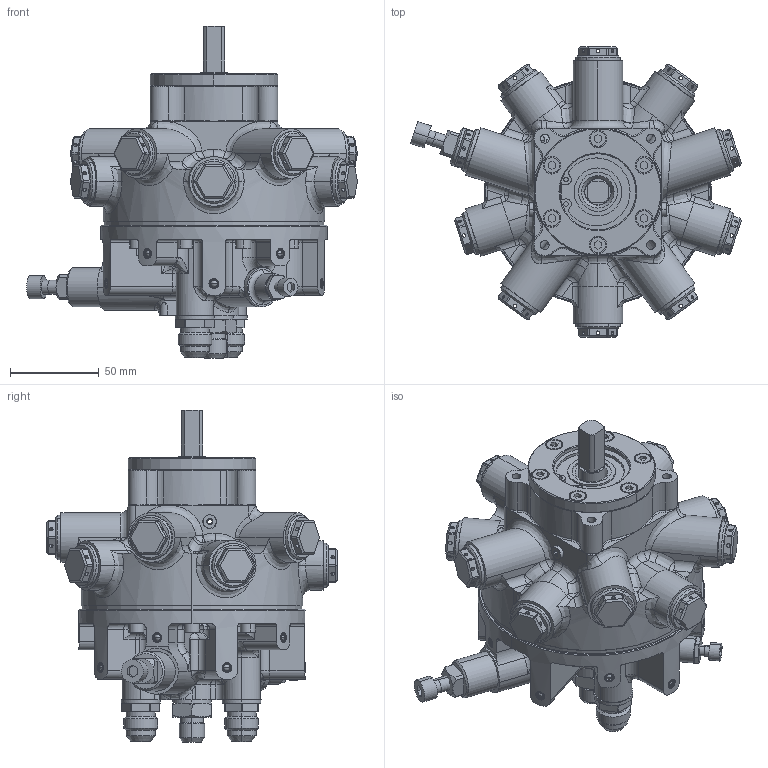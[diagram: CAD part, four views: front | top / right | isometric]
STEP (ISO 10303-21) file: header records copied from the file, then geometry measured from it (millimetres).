
FILE_DESCRIPTION (( 'STEP AP203' ), '1' );
FILE_NAME ('IPR10.STEP', '2018-05-30T10:15:25', ( 'utente' ), ( '' ), 'SwSTEP 2.0', 'SolidWorks 2015', '' );
FILE_SCHEMA (( 'CONFIG_CONTROL_DESIGN' ));
Length unit declared in the file: millimetre
Products named in the file (1): IPR10
Bounding box: 186.79 x 164 x 187.5 mm (x, y, z)
Surface area: 124637.3 mm2 (no closed solid volume)
Topology: 0 solids, 56 shells, 1648 faces, 4334 edges, 2581 vertices
Faces by surface type: cylinder 648, plane 470, bspline 180, cone 171, torus 109, sphere 70
Entity records: 59441 total; most frequent: CARTESIAN_POINT 20694, DIRECTION 8184, ORIENTED_EDGE 7907, EDGE_CURVE 4192, AXIS2_PLACEMENT_3D 3218, VERTEX_POINT 2570, EDGE_LOOP 1831, CIRCLE 1749
